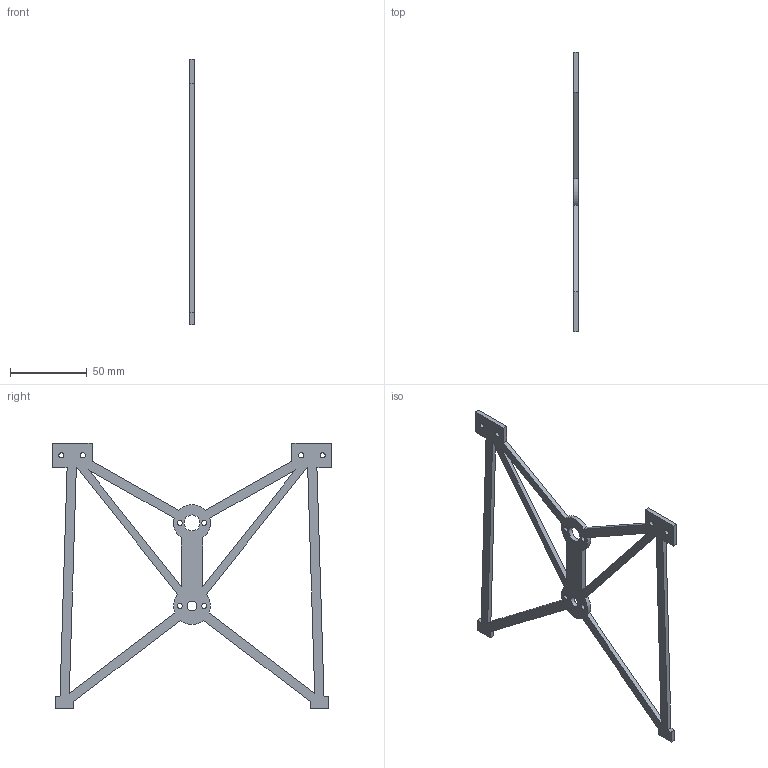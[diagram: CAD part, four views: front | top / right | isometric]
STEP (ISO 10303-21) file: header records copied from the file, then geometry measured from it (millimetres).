
FILE_DESCRIPTION(('Open CASCADE Model'),'2;1');
FILE_NAME('Open CASCADE Shape Model','2026-09-11T00:16:40',('Author'),( 'Open CASCADE'),'Open CASCADE STEP processor 7.9','Open CASCADE 7.9' ,'Unknown');
FILE_SCHEMA(('AUTOMOTIVE_DESIGN { 1 0 10303 214 1 1 1 1 }'));
Length unit declared in the file: millimetre
Products named in the file (1): Open CASCADE STEP translator 7.9 10
Bounding box: 3 x 182 x 173 mm (x, y, z)
Volume: 20384.1 mm3; surface area: 19816.7 mm2
Topology: 1 solids, 1 shells, 54 faces, 156 edges, 104 vertices
Faces by surface type: plane 38, cylinder 16
Full cylindrical faces by diameter (mm): 3.4 x8, 6.4 x1, 10.4 x1
Entity records: 3852 total; most frequent: CARTESIAN_POINT 767, DIRECTION 540, LINE 348, VECTOR 348, ORIENTED_EDGE 312, PCURVE 312, DEFINITIONAL_REPRESENTATION 312, EDGE_CURVE 156
